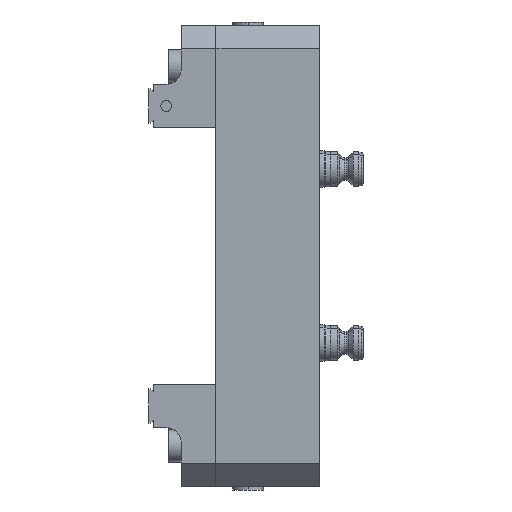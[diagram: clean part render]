
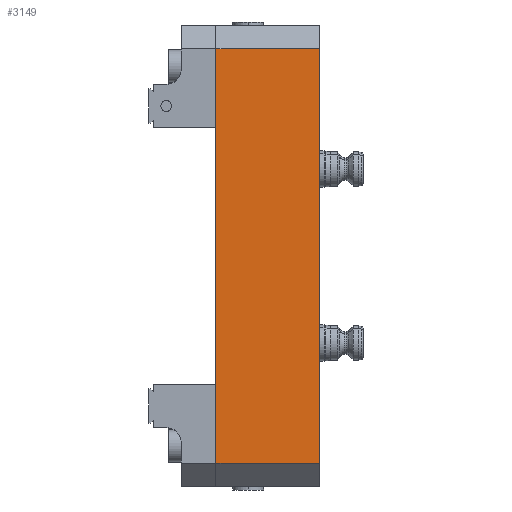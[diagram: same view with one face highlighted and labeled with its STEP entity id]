
A CAD part, left-side view. The second image highlights one B-rep face of the part: STEP entity #3149.
In plain terms, the highlighted planar face has unit normal (-1, 0, 0).
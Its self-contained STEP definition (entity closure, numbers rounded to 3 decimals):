
#50 = EDGE_CURVE ( 'NONE', #6885, #6078, #1777, .T. ) ;
#132 = VECTOR ( 'NONE', #1084, 1000. ) ;
#167 = EDGE_CURVE ( 'NONE', #6885, #4948, #1969, .T. ) ;
#419 = ORIENTED_EDGE ( 'NONE', *, *, #167, .T. ) ;
#962 = DIRECTION ( 'NONE',  ( 0., 1., 0. ) ) ;
#1074 = DIRECTION ( 'NONE',  ( 0., 0., -1. ) ) ;
#1084 = DIRECTION ( 'NONE',  ( 0., 1., 0. ) ) ;
#1457 = VERTEX_POINT ( 'NONE', #4841 ) ;
#1661 = DIRECTION ( 'NONE',  ( 0., 0., -1. ) ) ;
#1682 = DIRECTION ( 'NONE',  ( 0., 0., -1. ) ) ;
#1750 = ORIENTED_EDGE ( 'NONE', *, *, #3036, .F. ) ;
#1777 = LINE ( 'NONE', #6203, #3602 ) ;
#1969 = LINE ( 'NONE', #2364, #132 ) ;
#2169 = LINE ( 'NONE', #4595, #5657 ) ;
#2288 = CARTESIAN_POINT ( 'NONE',  ( 0., 0., 127. ) ) ;
#2364 = CARTESIAN_POINT ( 'NONE',  ( 0., 0., 114.3 ) ) ;
#3024 = FACE_OUTER_BOUND ( 'NONE', #6433, .T. ) ;
#3036 = EDGE_CURVE ( 'NONE', #6078, #1457, #6271, .T. ) ;
#3149 = ADVANCED_FACE ( 'NONE', ( #3024 ), #4086, .F. ) ;
#3602 = VECTOR ( 'NONE', #1661, 1000. ) ;
#3627 = CARTESIAN_POINT ( 'NONE',  ( 0., 0., -114.3 ) ) ;
#3750 = EDGE_CURVE ( 'NONE', #4948, #1457, #2169, .T. ) ;
#3950 = CARTESIAN_POINT ( 'NONE',  ( 0., 0., 114.3 ) ) ;
#4086 = PLANE ( 'NONE',  #7277 ) ;
#4519 = VECTOR ( 'NONE', #962, 1000. ) ;
#4551 = DIRECTION ( 'NONE',  ( 1., 0., 0. ) ) ;
#4595 = CARTESIAN_POINT ( 'NONE',  ( 0., 57.15, 127. ) ) ;
#4841 = CARTESIAN_POINT ( 'NONE',  ( 0., 57.15, -114.3 ) ) ;
#4948 = VERTEX_POINT ( 'NONE', #5547 ) ;
#5547 = CARTESIAN_POINT ( 'NONE',  ( 0., 57.15, 114.3 ) ) ;
#5657 = VECTOR ( 'NONE', #1682, 1000. ) ;
#6056 = ORIENTED_EDGE ( 'NONE', *, *, #50, .F. ) ;
#6078 = VERTEX_POINT ( 'NONE', #3627 ) ;
#6117 = CARTESIAN_POINT ( 'NONE',  ( 0., 0., -114.3 ) ) ;
#6203 = CARTESIAN_POINT ( 'NONE',  ( 0., 0., 127. ) ) ;
#6271 = LINE ( 'NONE', #6117, #4519 ) ;
#6433 = EDGE_LOOP ( 'NONE', ( #6056, #419, #7220, #1750 ) ) ;
#6885 = VERTEX_POINT ( 'NONE', #3950 ) ;
#7220 = ORIENTED_EDGE ( 'NONE', *, *, #3750, .T. ) ;
#7277 = AXIS2_PLACEMENT_3D ( 'NONE', #2288, #4551, #1074 ) ;
